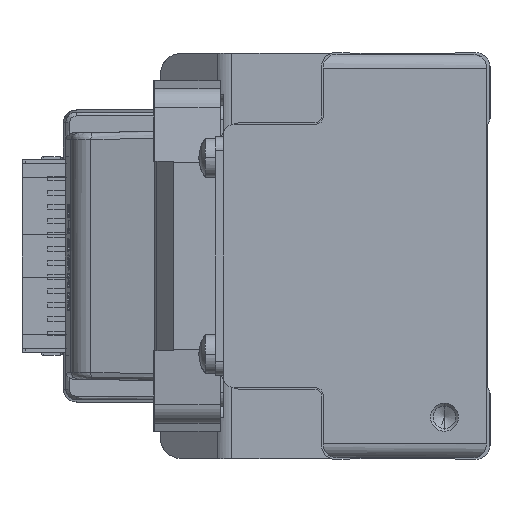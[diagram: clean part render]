
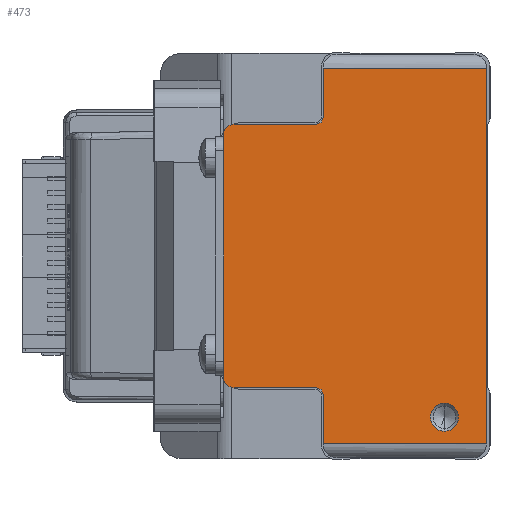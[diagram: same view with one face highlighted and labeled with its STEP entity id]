
A CAD part, left-side view. The second image highlights one B-rep face of the part: STEP entity #473.
In plain terms, the highlighted planar face has unit normal (-1, 0, 0) as drawn and (0, 0, 1) by its records, which use the part's own axes.
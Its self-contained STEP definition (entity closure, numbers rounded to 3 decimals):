
#47 = ORIENTED_EDGE ( 'NONE', *, *, #23527, .T. ) ;
#69 = AXIS2_PLACEMENT_3D ( 'NONE', #3317, #31166, #16578 ) ;
#473 = ADVANCED_FACE ( 'NONE', ( #11424, #25155 ), #11889, .T. ) ;
#700 = VECTOR ( 'NONE', #7097, 1000. ) ;
#1672 = ORIENTED_EDGE ( 'NONE', *, *, #10524, .T. ) ;
#3317 = CARTESIAN_POINT ( 'NONE',  ( -17.3, 36.5, 920. ) ) ;
#3416 = CARTESIAN_POINT ( 'NONE',  ( 17.3, 36.5, 920. ) ) ;
#3506 = LINE ( 'NONE', #37259, #700 ) ;
#3661 = LINE ( 'NONE', #14689, #35311 ) ;
#3976 = CARTESIAN_POINT ( 'NONE',  ( -23., 6.5, 920. ) ) ;
#4132 = CARTESIAN_POINT ( 'NONE',  ( -23., 6.5, 920. ) ) ;
#4241 = DIRECTION ( 'NONE',  ( 0., 0., 1. ) ) ;
#4271 = CARTESIAN_POINT ( 'NONE',  ( -26.8, 23.8, 920. ) ) ;
#4458 = CIRCLE ( 'NONE', #28137, 1.5 ) ;
#4566 = VERTEX_POINT ( 'NONE', #36147 ) ;
#4939 = EDGE_CURVE ( 'NONE', #33387, #25419, #3661, .T. ) ;
#5090 = ORIENTED_EDGE ( 'NONE', *, *, #10761, .F. ) ;
#5177 = DIRECTION ( 'NONE',  ( 1., 0., 0. ) ) ;
#5783 = DIRECTION ( 'NONE',  ( 0., -1., 0. ) ) ;
#5930 = CARTESIAN_POINT ( 'NONE',  ( 26.8, 24., 920. ) ) ;
#6350 = DIRECTION ( 'NONE',  ( 0., 0., 1. ) ) ;
#7097 = DIRECTION ( 'NONE',  ( -1., 0., 0. ) ) ;
#7746 = LINE ( 'NONE', #21473, #22351 ) ;
#7779 = EDGE_LOOP ( 'NONE', ( #11529, #47 ) ) ;
#8944 = VERTEX_POINT ( 'NONE', #12968 ) ;
#9069 = EDGE_CURVE ( 'NONE', #23407, #35601, #19446, .T. ) ;
#9116 = ORIENTED_EDGE ( 'NONE', *, *, #30327, .T. ) ;
#9153 = EDGE_CURVE ( 'NONE', #8944, #22133, #12249, .T. ) ;
#9892 = EDGE_CURVE ( 'NONE', #28881, #20314, #26455, .T. ) ;
#9955 = CARTESIAN_POINT ( 'NONE',  ( 26.8, 23.8, 920. ) ) ;
#10460 = VERTEX_POINT ( 'NONE', #14755 ) ;
#10482 = AXIS2_PLACEMENT_3D ( 'NONE', #25586, #4241, #38466 ) ;
#10524 = EDGE_CURVE ( 'NONE', #25419, #10460, #7746, .T. ) ;
#10605 = DIRECTION ( 'NONE',  ( 0., -1., 0. ) ) ;
#10761 = EDGE_CURVE ( 'NONE', #28881, #4566, #18782, .T. ) ;
#11111 = DIRECTION ( 'NONE',  ( 0., 0., -1. ) ) ;
#11258 = ORIENTED_EDGE ( 'NONE', *, *, #26565, .F. ) ;
#11424 = FACE_BOUND ( 'NONE', #7779, .T. ) ;
#11529 = ORIENTED_EDGE ( 'NONE', *, *, #9153, .T. ) ;
#11534 = VECTOR ( 'NONE', #5783, 1000. ) ;
#11889 = PLANE ( 'NONE',  #10482 ) ;
#12249 = CIRCLE ( 'NONE', #38145, 2. ) ;
#12251 = EDGE_LOOP ( 'NONE', ( #9116, #19344, #31389, #42059, #1672, #11258, #17150, #5090, #43802, #30013, #12924, #39438 ) ) ;
#12793 = DIRECTION ( 'NONE',  ( 0., 0., 1. ) ) ;
#12924 = ORIENTED_EDGE ( 'NONE', *, *, #34963, .T. ) ;
#12968 = CARTESIAN_POINT ( 'NONE',  ( -25., 6.5, 920. ) ) ;
#13021 = CARTESIAN_POINT ( 'NONE',  ( -19.8, 24.8, 920. ) ) ;
#13105 = LINE ( 'NONE', #5930, #27510 ) ;
#13173 = AXIS2_PLACEMENT_3D ( 'NONE', #4132, #11111, #24847 ) ;
#13201 = EDGE_CURVE ( 'NONE', #35238, #4566, #31158, .T. ) ;
#13214 = CIRCLE ( 'NONE', #43390, 1. ) ;
#14543 = DIRECTION ( 'NONE',  ( -1., 0., 0. ) ) ;
#14656 = CARTESIAN_POINT ( 'NONE',  ( -18.8, 24.8, 920. ) ) ;
#14689 = CARTESIAN_POINT ( 'NONE',  ( -26.8, 24., 920. ) ) ;
#14755 = CARTESIAN_POINT ( 'NONE',  ( 26.8, 0.5, 920. ) ) ;
#15078 = VECTOR ( 'NONE', #33903, 1000. ) ;
#15158 = VERTEX_POINT ( 'NONE', #21450 ) ;
#15972 = CARTESIAN_POINT ( 'NONE',  ( -21., 6.5, 920. ) ) ;
#16578 = DIRECTION ( 'NONE',  ( 1., 0., 0. ) ) ;
#17150 = ORIENTED_EDGE ( 'NONE', *, *, #13201, .T. ) ;
#18616 = VECTOR ( 'NONE', #33461, 1000. ) ;
#18782 = CIRCLE ( 'NONE', #20252, 1. ) ;
#19308 = DIRECTION ( 'NONE',  ( 0., 0., 1. ) ) ;
#19344 = ORIENTED_EDGE ( 'NONE', *, *, #24170, .F. ) ;
#19446 = CIRCLE ( 'NONE', #69, 1.5 ) ;
#20065 = DIRECTION ( 'NONE',  ( 0., -1., 0. ) ) ;
#20252 = AXIS2_PLACEMENT_3D ( 'NONE', #39808, #19308, #5177 ) ;
#20314 = VERTEX_POINT ( 'NONE', #34061 ) ;
#20852 = VERTEX_POINT ( 'NONE', #22631 ) ;
#21089 = CIRCLE ( 'NONE', #13173, 2. ) ;
#21450 = CARTESIAN_POINT ( 'NONE',  ( -19.8, 23.8, 920. ) ) ;
#21473 = CARTESIAN_POINT ( 'NONE',  ( -26.8, 0.5, 920. ) ) ;
#21494 = DIRECTION ( 'NONE',  ( 0., 0., -1. ) ) ;
#22133 = VERTEX_POINT ( 'NONE', #15972 ) ;
#22351 = VECTOR ( 'NONE', #29102, 1000. ) ;
#22631 = CARTESIAN_POINT ( 'NONE',  ( 17.3, 38., 920. ) ) ;
#22768 = EDGE_CURVE ( 'NONE', #20314, #20852, #4458, .T. ) ;
#23192 = CARTESIAN_POINT ( 'NONE',  ( -19.8, 23.8, 920. ) ) ;
#23407 = VERTEX_POINT ( 'NONE', #39946 ) ;
#23527 = EDGE_CURVE ( 'NONE', #22133, #8944, #21089, .T. ) ;
#24170 = EDGE_CURVE ( 'NONE', #15158, #43107, #13214, .T. ) ;
#24847 = DIRECTION ( 'NONE',  ( -1., 0., 0. ) ) ;
#25155 = FACE_OUTER_BOUND ( 'NONE', #12251, .T. ) ;
#25419 = VERTEX_POINT ( 'NONE', #28012 ) ;
#25574 = CARTESIAN_POINT ( 'NONE',  ( -18.8, 36.5, 920. ) ) ;
#25586 = CARTESIAN_POINT ( 'NONE',  ( -26.8, 21.8, 920. ) ) ;
#26097 = CARTESIAN_POINT ( 'NONE',  ( 18.8, 24.8, 920. ) ) ;
#26455 = LINE ( 'NONE', #30063, #18616 ) ;
#26565 = EDGE_CURVE ( 'NONE', #35238, #10460, #13105, .T. ) ;
#27343 = CARTESIAN_POINT ( 'NONE',  ( 26.8, 23.8, 920. ) ) ;
#27510 = VECTOR ( 'NONE', #20065, 1000. ) ;
#28012 = CARTESIAN_POINT ( 'NONE',  ( -26.8, 0.5, 920. ) ) ;
#28137 = AXIS2_PLACEMENT_3D ( 'NONE', #3416, #6350, #34704 ) ;
#28250 = VECTOR ( 'NONE', #44365, 1000. ) ;
#28881 = VERTEX_POINT ( 'NONE', #26097 ) ;
#29102 = DIRECTION ( 'NONE',  ( 1., 0., 0. ) ) ;
#30013 = ORIENTED_EDGE ( 'NONE', *, *, #22768, .T. ) ;
#30063 = CARTESIAN_POINT ( 'NONE',  ( 18.8, 24.8, 920. ) ) ;
#30327 = EDGE_CURVE ( 'NONE', #35601, #43107, #43132, .T. ) ;
#31158 = LINE ( 'NONE', #27343, #15078 ) ;
#31166 = DIRECTION ( 'NONE',  ( 0., 0., 1. ) ) ;
#31389 = ORIENTED_EDGE ( 'NONE', *, *, #31423, .T. ) ;
#31423 = EDGE_CURVE ( 'NONE', #15158, #33387, #36691, .T. ) ;
#33387 = VERTEX_POINT ( 'NONE', #4271 ) ;
#33461 = DIRECTION ( 'NONE',  ( 0., 1., 0. ) ) ;
#33903 = DIRECTION ( 'NONE',  ( -1., 0., 0. ) ) ;
#34061 = CARTESIAN_POINT ( 'NONE',  ( 18.8, 36.5, 920. ) ) ;
#34704 = DIRECTION ( 'NONE',  ( 1., 0., 0. ) ) ;
#34963 = EDGE_CURVE ( 'NONE', #20852, #23407, #3506, .T. ) ;
#35238 = VERTEX_POINT ( 'NONE', #9955 ) ;
#35311 = VECTOR ( 'NONE', #10605, 1000. ) ;
#35601 = VERTEX_POINT ( 'NONE', #25574 ) ;
#36147 = CARTESIAN_POINT ( 'NONE',  ( 19.8, 23.8, 920. ) ) ;
#36691 = LINE ( 'NONE', #23192, #28250 ) ;
#37070 = CARTESIAN_POINT ( 'NONE',  ( -18.8, 36.5, 920. ) ) ;
#37259 = CARTESIAN_POINT ( 'NONE',  ( 17.3, 38., 920. ) ) ;
#38145 = AXIS2_PLACEMENT_3D ( 'NONE', #3976, #21494, #14543 ) ;
#38466 = DIRECTION ( 'NONE',  ( 1., 0., 0. ) ) ;
#39438 = ORIENTED_EDGE ( 'NONE', *, *, #9069, .T. ) ;
#39808 = CARTESIAN_POINT ( 'NONE',  ( 19.8, 24.8, 920. ) ) ;
#39946 = CARTESIAN_POINT ( 'NONE',  ( -17.3, 38., 920. ) ) ;
#42059 = ORIENTED_EDGE ( 'NONE', *, *, #4939, .T. ) ;
#43107 = VERTEX_POINT ( 'NONE', #14656 ) ;
#43132 = LINE ( 'NONE', #37070, #11534 ) ;
#43390 = AXIS2_PLACEMENT_3D ( 'NONE', #13021, #12793, #44547 ) ;
#43802 = ORIENTED_EDGE ( 'NONE', *, *, #9892, .T. ) ;
#44365 = DIRECTION ( 'NONE',  ( -1., 0., 0. ) ) ;
#44547 = DIRECTION ( 'NONE',  ( 1., 0., 0. ) ) ;
